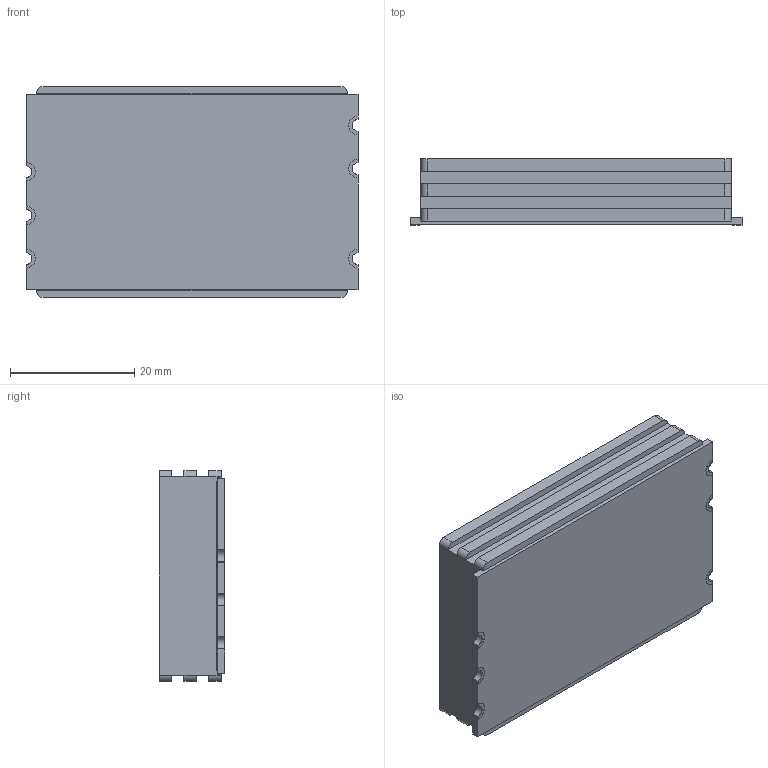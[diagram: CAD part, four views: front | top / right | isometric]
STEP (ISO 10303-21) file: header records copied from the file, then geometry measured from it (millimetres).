
FILE_DESCRIPTION(/* description */ (''),/* implementation_level */ '2;1');
FILE_NAME(/* name */ 'D:\Project\ptk\dc-dc\TL-BBC01\TL-BBC01.stp',/* time_stamp */ '2021-06-07T19:13:45+03:00',/* author */ ('User'),/* organization */ (''),/* preprocessor_version */ 'ST-DEVELOPER v18.1',/* originating_system */ 'Autodesk Inventor 2021',/* authorisation */ '');
FILE_SCHEMA (('AUTOMOTIVE_DESIGN { 1 0 10303 214 3 1 1 }'));
Length unit declared in the file: millimetre
Products named in the file (5): TL-BBC01; PCB; Контакты; board; cooler_end
Assembly tree (4 placements, depth 3):
  TL-BBC01
    PCB
      Контакты
      board
    cooler_end
Bounding box: 53.5 x 10.6 x 34 mm (x, y, z)
Volume: 13382.2 mm3; surface area: 9958.5 mm2
Topology: 8 solids, 8 shells, 172 faces, 448 edges, 292 vertices
Faces by surface type: plane 110, cylinder 62
Entity records: 5460 total; most frequent: DIRECTION 938, CARTESIAN_POINT 921, ORIENTED_EDGE 896, EDGE_CURVE 448, LINE 320, VECTOR 320, AXIS2_PLACEMENT_3D 309, VERTEX_POINT 292
